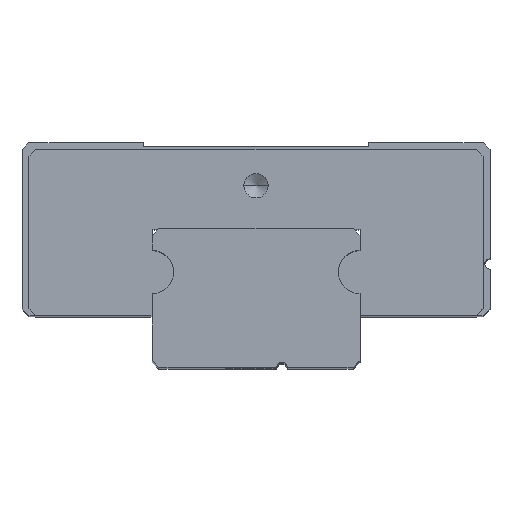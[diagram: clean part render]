
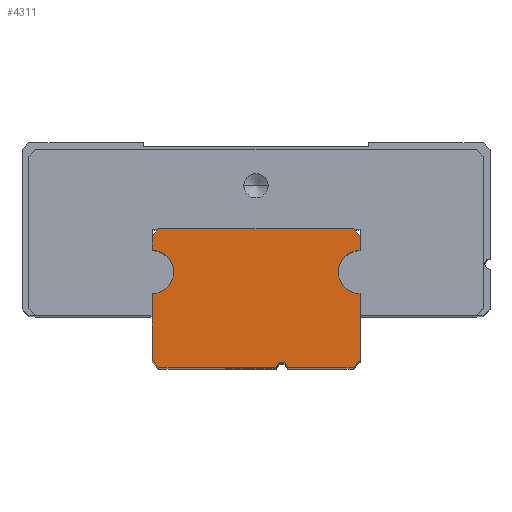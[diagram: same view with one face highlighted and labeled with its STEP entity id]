
A CAD part, top view. The second image highlights one B-rep face of the part: STEP entity #4311.
In plain terms, the highlighted planar face has unit normal (0, 0, 1).
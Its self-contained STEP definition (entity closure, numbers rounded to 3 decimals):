
#29 = EDGE_CURVE ( 'NONE', #2478, #2622, #2573, .T. ) ;
#184 = ORIENTED_EDGE ( 'NONE', *, *, #1656, .T. ) ;
#199 = VERTEX_POINT ( 'NONE', #2844 ) ;
#205 = EDGE_CURVE ( 'NONE', #2082, #199, #1053, .T. ) ;
#217 = DIRECTION ( 'NONE',  ( 0., -1., 0. ) ) ;
#265 = CARTESIAN_POINT ( 'NONE',  ( 6., 0.4, 35. ) ) ;
#328 = DIRECTION ( 'NONE',  ( 0., 0., 1. ) ) ;
#337 = CARTESIAN_POINT ( 'NONE',  ( 1.2, 0., 35. ) ) ;
#399 = CARTESIAN_POINT ( 'NONE',  ( 6., 5.5, 35. ) ) ;
#427 = DIRECTION ( 'NONE',  ( 0., 0., -1. ) ) ;
#488 = CARTESIAN_POINT ( 'NONE',  ( 4.75, 5.5, 35. ) ) ;
#621 = EDGE_CURVE ( 'NONE', #1032, #199, #942, .T. ) ;
#624 = LINE ( 'NONE', #1323, #2197 ) ;
#627 = VECTOR ( 'NONE', #4057, 1000. ) ;
#658 = ORIENTED_EDGE ( 'NONE', *, *, #2283, .F. ) ;
#684 = ORIENTED_EDGE ( 'NONE', *, *, #621, .T. ) ;
#711 = DIRECTION ( 'NONE',  ( 0., 0., 1. ) ) ;
#736 = DIRECTION ( 'NONE',  ( -1., 0., 0. ) ) ;
#783 = CARTESIAN_POINT ( 'NONE',  ( -6., 4.25, 35. ) ) ;
#861 = CARTESIAN_POINT ( 'NONE',  ( -5.6, 8., 35. ) ) ;
#900 = EDGE_CURVE ( 'NONE', #1032, #3674, #3973, .T. ) ;
#941 = ORIENTED_EDGE ( 'NONE', *, *, #2741, .T. ) ;
#942 = LINE ( 'NONE', #265, #2412 ) ;
#966 = ORIENTED_EDGE ( 'NONE', *, *, #205, .F. ) ;
#983 = DIRECTION ( 'NONE',  ( -1., 0., 0. ) ) ;
#1004 = VECTOR ( 'NONE', #1425, 1000. ) ;
#1032 = VERTEX_POINT ( 'NONE', #3277 ) ;
#1053 = LINE ( 'NONE', #3433, #2491 ) ;
#1093 = ORIENTED_EDGE ( 'NONE', *, *, #4494, .F. ) ;
#1123 = CARTESIAN_POINT ( 'NONE',  ( -6., 6.75, 35. ) ) ;
#1130 = CARTESIAN_POINT ( 'NONE',  ( 6., 6.75, 35. ) ) ;
#1184 = VERTEX_POINT ( 'NONE', #3136 ) ;
#1257 = DIRECTION ( 'NONE',  ( 0., 0., -1. ) ) ;
#1323 = CARTESIAN_POINT ( 'NONE',  ( -6., 0., 35. ) ) ;
#1345 = FACE_OUTER_BOUND ( 'NONE', #2367, .T. ) ;
#1425 = DIRECTION ( 'NONE',  ( -1., 0., 0. ) ) ;
#1435 = EDGE_CURVE ( 'NONE', #4586, #2622, #1471, .T. ) ;
#1448 = ORIENTED_EDGE ( 'NONE', *, *, #900, .F. ) ;
#1454 = LINE ( 'NONE', #3983, #2807 ) ;
#1471 = LINE ( 'NONE', #1766, #1004 ) ;
#1483 = VERTEX_POINT ( 'NONE', #1123 ) ;
#1486 = EDGE_CURVE ( 'NONE', #4387, #4461, #3979, .T. ) ;
#1523 = AXIS2_PLACEMENT_3D ( 'NONE', #3138, #4584, #983 ) ;
#1530 = CARTESIAN_POINT ( 'NONE',  ( 5.6, 8., 35. ) ) ;
#1537 = ORIENTED_EDGE ( 'NONE', *, *, #3970, .F. ) ;
#1550 = EDGE_CURVE ( 'NONE', #1184, #4224, #4576, .T. ) ;
#1617 = CARTESIAN_POINT ( 'NONE',  ( 6., 0., 35. ) ) ;
#1637 = CIRCLE ( 'NONE', #2861, 1.25 ) ;
#1654 = ORIENTED_EDGE ( 'NONE', *, *, #29, .T. ) ;
#1656 = EDGE_CURVE ( 'NONE', #1184, #4387, #1454, .T. ) ;
#1734 = CIRCLE ( 'NONE', #1523, 1.25 ) ;
#1750 = CARTESIAN_POINT ( 'NONE',  ( -6., 0.4, 35. ) ) ;
#1751 = ORIENTED_EDGE ( 'NONE', *, *, #3893, .F. ) ;
#1766 = CARTESIAN_POINT ( 'NONE',  ( 1.5, 0., 35. ) ) ;
#1782 = AXIS2_PLACEMENT_3D ( 'NONE', #4216, #1257, #217 ) ;
#1890 = EDGE_CURVE ( 'NONE', #1483, #3675, #624, .T. ) ;
#1893 = DIRECTION ( 'NONE',  ( -1., 0., 0. ) ) ;
#1906 = CARTESIAN_POINT ( 'NONE',  ( -6., 7.6, 35. ) ) ;
#1939 = CARTESIAN_POINT ( 'NONE',  ( 1.8, 0., 35. ) ) ;
#2021 = CARTESIAN_POINT ( 'NONE',  ( -6., 0., 35. ) ) ;
#2043 = CARTESIAN_POINT ( 'NONE',  ( -5.6, 0., 35. ) ) ;
#2082 = VERTEX_POINT ( 'NONE', #4495 ) ;
#2150 = DIRECTION ( 'NONE',  ( -1., 0., 0. ) ) ;
#2197 = VECTOR ( 'NONE', #2330, 1000. ) ;
#2283 = EDGE_CURVE ( 'NONE', #4651, #1483, #1734, .T. ) ;
#2294 = DIRECTION ( 'NONE',  ( -0.707, -0.707, 0. ) ) ;
#2309 = CARTESIAN_POINT ( 'NONE',  ( -5.6, 0., 35. ) ) ;
#2317 = VECTOR ( 'NONE', #2150, 1000. ) ;
#2330 = DIRECTION ( 'NONE',  ( 0., 1., 0. ) ) ;
#2334 = EDGE_CURVE ( 'NONE', #4461, #3675, #3026, .T. ) ;
#2367 = EDGE_LOOP ( 'NONE', ( #1093, #1654, #4142, #941, #1448, #684, #966, #1751, #1537, #3984, #184, #3342, #2727, #4664, #658 ) ) ;
#2412 = VECTOR ( 'NONE', #4170, 1000. ) ;
#2478 = VERTEX_POINT ( 'NONE', #1750 ) ;
#2491 = VECTOR ( 'NONE', #4215, 1000. ) ;
#2573 = LINE ( 'NONE', #2309, #627 ) ;
#2591 = CARTESIAN_POINT ( 'NONE',  ( -6., 7.6, 35. ) ) ;
#2622 = VERTEX_POINT ( 'NONE', #2043 ) ;
#2727 = ORIENTED_EDGE ( 'NONE', *, *, #2334, .T. ) ;
#2735 = VECTOR ( 'NONE', #736, 1000. ) ;
#2741 = EDGE_CURVE ( 'NONE', #4586, #3674, #3335, .T. ) ;
#2768 = DIRECTION ( 'NONE',  ( 0., -1., 0. ) ) ;
#2807 = VECTOR ( 'NONE', #3625, 1000. ) ;
#2842 = CARTESIAN_POINT ( 'NONE',  ( 1.5, 0., 35. ) ) ;
#2844 = CARTESIAN_POINT ( 'NONE',  ( 6., 0.4, 35. ) ) ;
#2861 = AXIS2_PLACEMENT_3D ( 'NONE', #4290, #328, #3206 ) ;
#2948 = VECTOR ( 'NONE', #2294, 1000. ) ;
#3026 = LINE ( 'NONE', #1906, #2948 ) ;
#3050 = PLANE ( 'NONE',  #1782 ) ;
#3067 = VERTEX_POINT ( 'NONE', #488 ) ;
#3100 = LINE ( 'NONE', #2021, #4675 ) ;
#3136 = CARTESIAN_POINT ( 'NONE',  ( 6., 7.6, 35. ) ) ;
#3138 = CARTESIAN_POINT ( 'NONE',  ( -6., 5.5, 35. ) ) ;
#3186 = AXIS2_PLACEMENT_3D ( 'NONE', #4025, #427, #1893 ) ;
#3206 = DIRECTION ( 'NONE',  ( -1., 0., 0. ) ) ;
#3277 = CARTESIAN_POINT ( 'NONE',  ( 5.6, 0., 35. ) ) ;
#3335 = CIRCLE ( 'NONE', #3186, 0.3 ) ;
#3342 = ORIENTED_EDGE ( 'NONE', *, *, #1486, .T. ) ;
#3423 = VECTOR ( 'NONE', #2768, 1000. ) ;
#3433 = CARTESIAN_POINT ( 'NONE',  ( 6., 0., 35. ) ) ;
#3576 = CARTESIAN_POINT ( 'NONE',  ( 6., 8., 35. ) ) ;
#3625 = DIRECTION ( 'NONE',  ( -0.707, 0.707, 0. ) ) ;
#3674 = VERTEX_POINT ( 'NONE', #1939 ) ;
#3675 = VERTEX_POINT ( 'NONE', #2591 ) ;
#3695 = AXIS2_PLACEMENT_3D ( 'NONE', #399, #711, #4654 ) ;
#3818 = DIRECTION ( 'NONE',  ( 0., 1., 0. ) ) ;
#3893 = EDGE_CURVE ( 'NONE', #3067, #2082, #4609, .T. ) ;
#3970 = EDGE_CURVE ( 'NONE', #4224, #3067, #1637, .T. ) ;
#3973 = LINE ( 'NONE', #2842, #2317 ) ;
#3979 = LINE ( 'NONE', #3576, #2735 ) ;
#3983 = CARTESIAN_POINT ( 'NONE',  ( 5.6, 8., 35. ) ) ;
#3984 = ORIENTED_EDGE ( 'NONE', *, *, #1550, .F. ) ;
#4025 = CARTESIAN_POINT ( 'NONE',  ( 1.5, 0., 35. ) ) ;
#4057 = DIRECTION ( 'NONE',  ( 0.707, -0.707, 0. ) ) ;
#4142 = ORIENTED_EDGE ( 'NONE', *, *, #1435, .F. ) ;
#4170 = DIRECTION ( 'NONE',  ( 0.707, 0.707, 0. ) ) ;
#4215 = DIRECTION ( 'NONE',  ( 0., -1., 0. ) ) ;
#4216 = CARTESIAN_POINT ( 'NONE',  ( 1.5, 0., 35. ) ) ;
#4224 = VERTEX_POINT ( 'NONE', #1130 ) ;
#4290 = CARTESIAN_POINT ( 'NONE',  ( 6., 5.5, 35. ) ) ;
#4311 = ADVANCED_FACE ( 'NONE', ( #1345 ), #3050, .F. ) ;
#4387 = VERTEX_POINT ( 'NONE', #1530 ) ;
#4461 = VERTEX_POINT ( 'NONE', #861 ) ;
#4494 = EDGE_CURVE ( 'NONE', #2478, #4651, #3100, .T. ) ;
#4495 = CARTESIAN_POINT ( 'NONE',  ( 6., 4.25, 35. ) ) ;
#4576 = LINE ( 'NONE', #1617, #3423 ) ;
#4584 = DIRECTION ( 'NONE',  ( 0., 0., 1. ) ) ;
#4586 = VERTEX_POINT ( 'NONE', #337 ) ;
#4609 = CIRCLE ( 'NONE', #3695, 1.25 ) ;
#4651 = VERTEX_POINT ( 'NONE', #783 ) ;
#4654 = DIRECTION ( 'NONE',  ( -1., 0., 0. ) ) ;
#4664 = ORIENTED_EDGE ( 'NONE', *, *, #1890, .F. ) ;
#4675 = VECTOR ( 'NONE', #3818, 1000. ) ;
